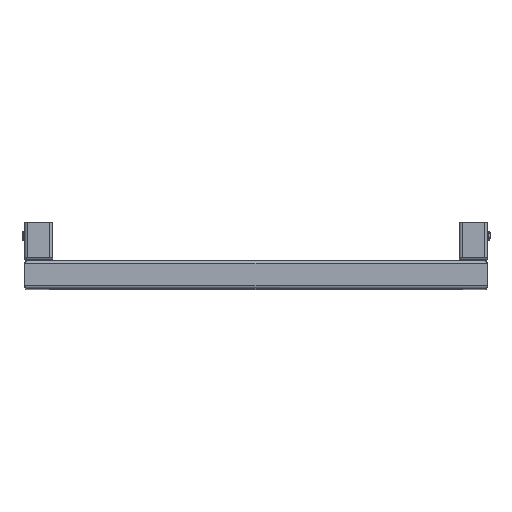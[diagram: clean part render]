
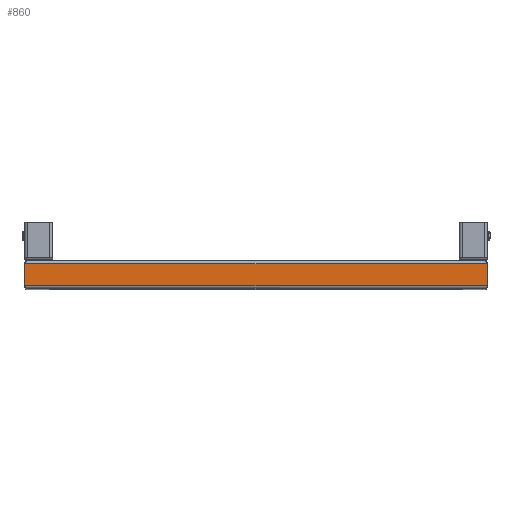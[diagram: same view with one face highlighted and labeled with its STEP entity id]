
A CAD part, top view. The second image highlights one B-rep face of the part: STEP entity #860.
In plain terms, the highlighted planar face has unit normal (0, 0, 1).
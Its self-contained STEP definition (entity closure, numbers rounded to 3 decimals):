
#611=CARTESIAN_POINT('',(250.,27.0,835.0));
#612=VERTEX_POINT('',#611);
#642=CARTESIAN_POINT('',(-250.,27.0,835.0));
#643=VERTEX_POINT('',#642);
#651=CARTESIAN_POINT('',(-250.,27.0,835.0));
#652=DIRECTION('',(1.0,0.0,0.0));
#653=VECTOR('',#652,500.);
#654=LINE('',#651,#653);
#655=EDGE_CURVE('',#643,#612,#654,.T.);
#702=CARTESIAN_POINT('',(250.,3.0,835.0));
#703=VERTEX_POINT('',#702);
#704=CARTESIAN_POINT('',(250.,3.0,835.0));
#705=DIRECTION('',(0.0,1.0,0.0));
#706=VECTOR('',#705,24.0);
#707=LINE('',#704,#706);
#708=EDGE_CURVE('',#703,#612,#707,.T.);
#725=CARTESIAN_POINT('',(-250.,3.0,835.0));
#726=VERTEX_POINT('',#725);
#727=CARTESIAN_POINT('',(250.,3.0,835.0));
#728=DIRECTION('',(-1.0,0.0,0.0));
#729=VECTOR('',#728,500.);
#730=LINE('',#727,#729);
#731=EDGE_CURVE('',#703,#726,#730,.T.);
#840=CARTESIAN_POINT('',(-250.,3.0,835.0));
#841=DIRECTION('',(0.0,1.0,0.0));
#842=VECTOR('',#841,24.0);
#843=LINE('',#840,#842);
#844=EDGE_CURVE('',#726,#643,#843,.T.);
#849=CARTESIAN_POINT('',(250.,0.0,835.0));
#850=DIRECTION('',(0.0,0.0,1.0));
#851=DIRECTION('',(1.0,0.0,0.0));
#852=AXIS2_PLACEMENT_3D('',#849,#850,#851);
#853=PLANE('',#852);
#854=ORIENTED_EDGE('',*,*,#655,.F.);
#855=ORIENTED_EDGE('',*,*,#844,.F.);
#856=ORIENTED_EDGE('',*,*,#731,.F.);
#857=ORIENTED_EDGE('',*,*,#708,.T.);
#858=EDGE_LOOP('',(#854,#855,#856,#857));
#859=FACE_OUTER_BOUND('',#858,.T.);
#860=ADVANCED_FACE('',(#859),#853,.T.);
